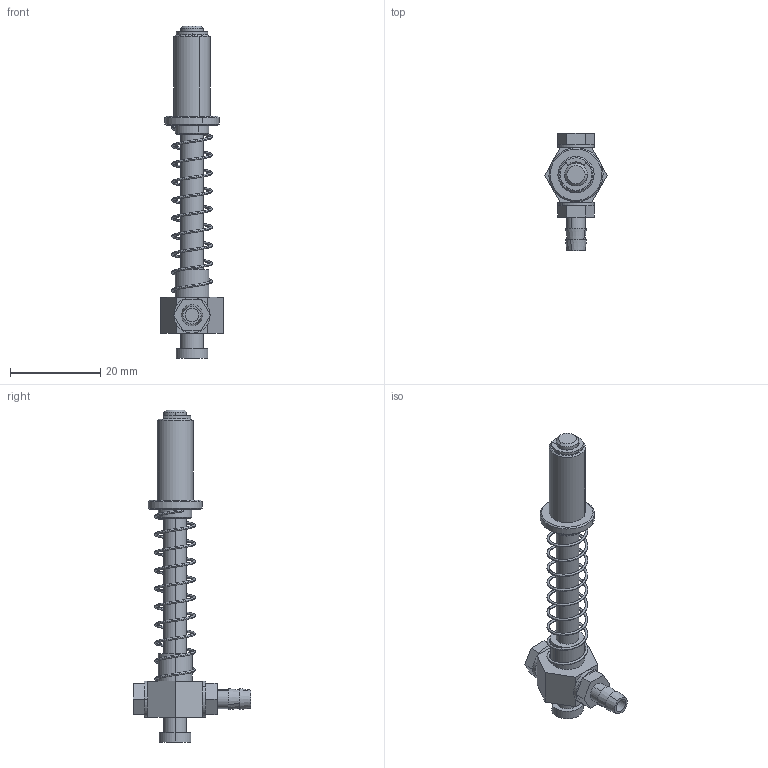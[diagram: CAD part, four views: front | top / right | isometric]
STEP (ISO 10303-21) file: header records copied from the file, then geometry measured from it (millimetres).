
FILE_DESCRIPTION (( 'STEP AP214' ), '1' );
FILE_NAME ('211039.STEP', '2023-07-20T06:36:46', ( '' ), ( '' ), 'SwSTEP 2.0', 'SolidWorks 2021', '' );
FILE_SCHEMA (( 'AUTOMOTIVE_DESIGN' ));
Length unit declared in the file: millimetre
Products named in the file (1): 211039
Bounding box: 13.86 x 26.1 x 73.5 mm (x, y, z)
Volume: 3486.7 mm3; surface area: 4308.1 mm2
Topology: 8 solids, 8 shells, 162 faces, 384 edges, 252 vertices
Faces by surface type: cylinder 71, plane 55, cone 18, bspline 18
Entity records: 11780 total; most frequent: CARTESIAN_POINT 6222, ORIENTED_EDGE 768, DIRECTION 719, EDGE_CURVE 384, AXIS2_PLACEMENT_3D 279, VERTEX_POINT 252, EDGE_LOOP 188, UNCERTAINTY_MEASURE_WITH_UNIT 172
